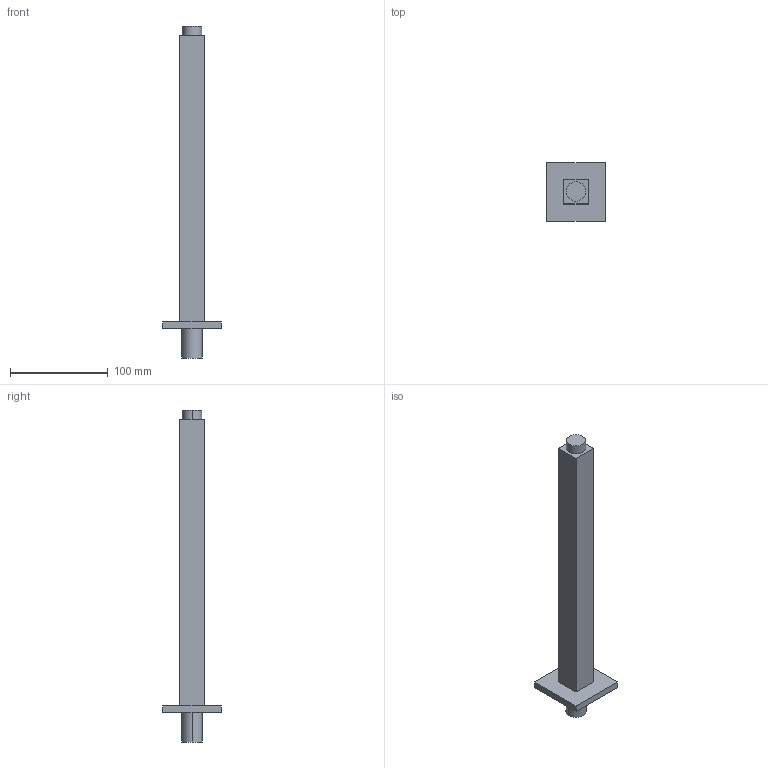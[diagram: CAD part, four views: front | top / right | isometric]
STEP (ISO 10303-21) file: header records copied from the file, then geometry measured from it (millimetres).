
FILE_DESCRIPTION (( 'STEP AP203' ), '1' );
FILE_NAME ('ARM3.STEP', '2017-01-13T07:57:58', ( '' ), ( '' ), 'SwSTEP 2.0', 'SolidWorks 2014', '' );
FILE_SCHEMA (( 'CONFIG_CONTROL_DESIGN' ));
Length unit declared in the file: millimetre
Products named in the file (1): ARM3
Bounding box: 60 x 60 x 340 mm (x, y, z)
Volume: 221460.1 mm3; surface area: 40801.3 mm2
Topology: 1 solids, 1 shells, 20 faces, 42 edges, 28 vertices
Faces by surface type: plane 14, cylinder 6
Entity records: 615 total; most frequent: DIRECTION 96, CARTESIAN_POINT 91, ORIENTED_EDGE 84, EDGE_CURVE 42, AXIS2_PLACEMENT_3D 33, LINE 30, VECTOR 30, VERTEX_POINT 28
